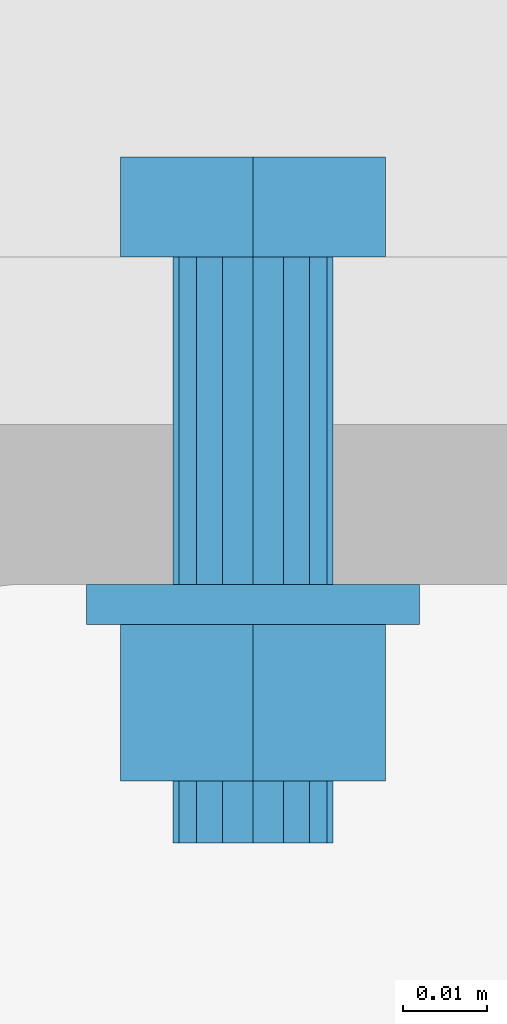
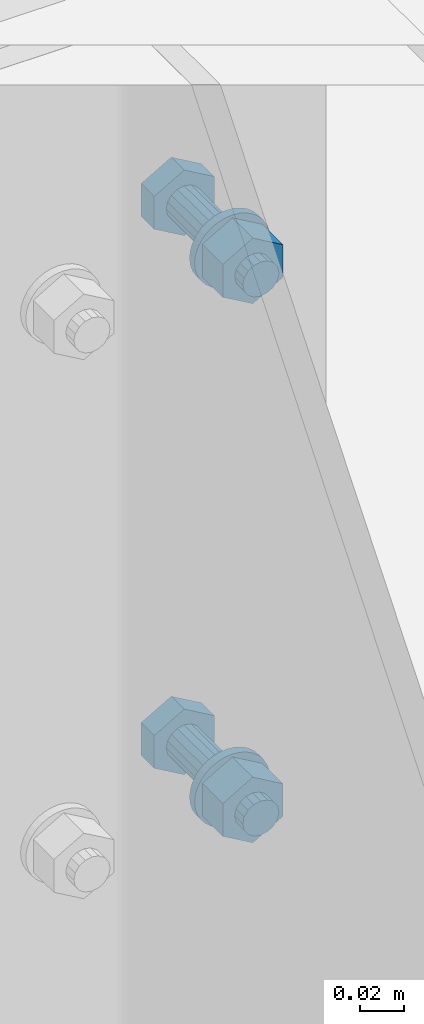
# Not in any storey, part 13 of 51: 2 mechanical fasteners.
"""IFC4 model written with IfcOpenShell, lengths in feet."""

from ifc_helpers import new_model, entity, si_unit, converted_unit, direction, origin, origin_with_axes, place, context, project, spatial, faceted_brep, element, save


model = new_model("IFC4")

# Units and contexts
model_context = context("Model", 3, precision=0.0001, world=origin(), true_north=direction((6.123233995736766e-17, 1.0)))
ifc_project = project(units=[converted_unit("LENGTHUNIT", "FOOT", entity("IfcLengthMeasure", 0.3048), si_unit("LENGTHUNIT", "METRE"), dimensions=[1, 0, 0, 0, 0, 0, 0]), converted_unit("AREAUNIT", "SQUARE INCH", entity("IfcAreaMeasure", 0.0006451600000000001), si_unit("AREAUNIT", "SQUARE_METRE"), dimensions=[2, 0, 0, 0, 0, 0, 0]), converted_unit("PLANEANGLEUNIT", "DEGREE", entity("IfcPlaneAngleMeasure", 0.017453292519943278), si_unit("PLANEANGLEUNIT", "RADIAN"), dimensions=[0, 0, 0, 0, 0, 0, 0]), si_unit("VOLUMEUNIT", "CUBIC_METRE")], contexts=[model_context])

# Site
site_placement = place(None, origin())
site = spatial("IfcSite", under=ifc_project, at=site_placement, Name="Default", CompositionType="ELEMENT")

# Mechanical fasteners
mechanical_fastener_1_placement = place(site_placement, origin_with_axes())
element("IfcMechanicalFastener", 1, at=mechanical_fastener_1_placement, inside=site, ObjectType="Bolt#3", NominalDiameter=0.0625, NominalLength=0.22916666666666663, context=model_context, shape_type="Brep", body=[
    faceted_brep([(27.751898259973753, 6.28730066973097, 19.146561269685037), (27.751898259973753, 6.326363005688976, 19.146561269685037), (27.803769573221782, 6.326363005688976, 19.11661335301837), (27.803769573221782, 6.28730066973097, 19.11661335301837), (27.855640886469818, 6.326363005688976, 19.146561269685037), (27.855640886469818, 6.28730066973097, 19.146561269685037), (27.855640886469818, 6.326363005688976, 19.206457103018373), (27.855640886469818, 6.28730066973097, 19.206457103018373), (27.803769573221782, 6.326363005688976, 19.23640501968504), (27.803769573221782, 6.28730066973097, 19.23640501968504), (27.751898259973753, 6.326363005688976, 19.206457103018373), (27.751898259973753, 6.28730066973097, 19.206457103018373)], [[[0, 1, 2, 3]], [[3, 2, 4, 5]], [[5, 4, 6, 7]], [[7, 6, 8, 9]], [[9, 8, 10, 11]], [[11, 10, 1, 0]], [[4, 2, 1, 10, 8, 6]], [[0, 3, 5, 7, 9, 11]]]),
    faceted_brep([(27.835019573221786, 6.28730066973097, 19.176509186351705), (27.835019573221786, 6.159183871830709, 19.176509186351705), (27.832640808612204, 6.159183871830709, 19.164550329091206), (27.832640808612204, 6.28730066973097, 19.164550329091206), (27.825866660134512, 6.159183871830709, 19.15441209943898), (27.825866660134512, 6.28730066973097, 19.15441209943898), (27.815728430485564, 6.159183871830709, 19.147637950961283), (27.815728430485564, 6.28730066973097, 19.147637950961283), (27.803769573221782, 6.159183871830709, 19.145259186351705), (27.803769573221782, 6.28730066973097, 19.145259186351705), (27.791810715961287, 6.159183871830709, 19.147637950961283), (27.791810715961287, 6.28730066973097, 19.147637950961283), (27.781672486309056, 6.159183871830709, 19.15441209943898), (27.781672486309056, 6.28730066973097, 19.15441209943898), (27.774898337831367, 6.159183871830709, 19.164550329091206), (27.774898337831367, 6.28730066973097, 19.164550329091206), (27.772519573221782, 6.159183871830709, 19.176509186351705), (27.772519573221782, 6.28730066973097, 19.176509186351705), (27.774898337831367, 6.159183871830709, 19.188468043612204), (27.774898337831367, 6.28730066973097, 19.188468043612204), (27.781672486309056, 6.159183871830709, 19.198606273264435), (27.781672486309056, 6.28730066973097, 19.198606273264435), (27.791810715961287, 6.159183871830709, 19.205380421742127), (27.791810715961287, 6.28730066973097, 19.205380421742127), (27.803769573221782, 6.159183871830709, 19.207759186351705), (27.803769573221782, 6.28730066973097, 19.207759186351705), (27.815728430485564, 6.159183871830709, 19.205380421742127), (27.815728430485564, 6.28730066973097, 19.205380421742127), (27.825866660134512, 6.159183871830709, 19.198606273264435), (27.825866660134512, 6.28730066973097, 19.198606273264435), (27.832640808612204, 6.159183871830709, 19.188468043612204), (27.832640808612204, 6.28730066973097, 19.188468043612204)], [[[0, 1, 2, 3]], [[3, 2, 4, 5]], [[5, 4, 6, 7]], [[7, 6, 8, 9]], [[9, 8, 10, 11]], [[11, 10, 12, 13]], [[13, 12, 14, 15]], [[15, 14, 16, 17]], [[17, 16, 18, 19]], [[19, 18, 20, 21]], [[21, 20, 22, 23]], [[23, 22, 24, 25]], [[25, 24, 26, 27]], [[27, 26, 28, 29]], [[29, 28, 30, 31]], [[31, 30, 1, 0]], [[0, 3, 5, 7, 9, 11, 13, 15, 17, 19, 21, 23, 25, 27, 29, 31]], [[1, 30, 28, 26, 24, 22, 20, 18, 16, 14, 12, 10, 8, 6, 4, 2]]]),
    faceted_brep([(27.86887373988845, 6.159183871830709, 19.176509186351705), (27.86887373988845, 6.143558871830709, 19.176509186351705), (27.867622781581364, 6.143558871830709, 19.1638079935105), (27.867622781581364, 6.159183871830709, 19.1638079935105), (27.863917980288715, 6.143558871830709, 19.151594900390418), (27.863917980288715, 6.159183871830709, 19.151594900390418), (27.857901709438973, 6.143558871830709, 19.14033924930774), (27.857901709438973, 6.159183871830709, 19.14033924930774), (27.849805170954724, 6.143558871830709, 19.130473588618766), (27.849805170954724, 6.159183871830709, 19.130473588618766), (27.839939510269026, 6.143558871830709, 19.122377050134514), (27.839939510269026, 6.159183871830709, 19.122377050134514), (27.82868385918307, 6.143558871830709, 19.11636077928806), (27.82868385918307, 6.159183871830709, 19.11636077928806), (27.816470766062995, 6.143558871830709, 19.112655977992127), (27.816470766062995, 6.159183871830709, 19.112655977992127), (27.803769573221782, 6.143558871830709, 19.111405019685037), (27.803769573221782, 6.159183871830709, 19.111405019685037), (27.79106838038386, 6.143558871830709, 19.112655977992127), (27.79106838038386, 6.159183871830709, 19.112655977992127), (27.7788552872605, 6.143558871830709, 19.11636077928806), (27.7788552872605, 6.159183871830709, 19.11636077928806), (27.76759963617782, 6.143558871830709, 19.122377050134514), (27.76759963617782, 6.159183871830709, 19.122377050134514), (27.757733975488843, 6.143558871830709, 19.130473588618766), (27.757733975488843, 6.159183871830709, 19.130473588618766), (27.749637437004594, 6.143558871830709, 19.14033924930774), (27.749637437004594, 6.159183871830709, 19.14033924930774), (27.743621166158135, 6.143558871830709, 19.151594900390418), (27.743621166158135, 6.159183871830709, 19.151594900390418), (27.739916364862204, 6.143558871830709, 19.1638079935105), (27.739916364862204, 6.159183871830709, 19.1638079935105), (27.738665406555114, 6.143558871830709, 19.176509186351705), (27.738665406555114, 6.159183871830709, 19.176509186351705), (27.739916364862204, 6.143558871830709, 19.18921037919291), (27.739916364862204, 6.159183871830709, 19.18921037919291), (27.743621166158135, 6.143558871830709, 19.201423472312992), (27.743621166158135, 6.159183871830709, 19.201423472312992), (27.749637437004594, 6.143558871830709, 19.21267912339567), (27.749637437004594, 6.159183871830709, 19.21267912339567), (27.757733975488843, 6.143558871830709, 19.222544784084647), (27.757733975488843, 6.159183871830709, 19.222544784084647), (27.76759963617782, 6.143558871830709, 19.230641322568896), (27.76759963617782, 6.159183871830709, 19.230641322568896), (27.7788552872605, 6.143558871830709, 19.23665759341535), (27.7788552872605, 6.159183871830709, 19.23665759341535), (27.79106838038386, 6.143558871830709, 19.240362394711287), (27.79106838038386, 6.159183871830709, 19.240362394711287), (27.803769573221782, 6.143558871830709, 19.241613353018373), (27.803769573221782, 6.159183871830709, 19.241613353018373), (27.816470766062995, 6.143558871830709, 19.240362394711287), (27.816470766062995, 6.159183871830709, 19.240362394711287), (27.82868385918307, 6.143558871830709, 19.23665759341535), (27.82868385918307, 6.159183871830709, 19.23665759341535), (27.839939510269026, 6.143558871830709, 19.230641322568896), (27.839939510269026, 6.159183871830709, 19.230641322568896), (27.849805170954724, 6.143558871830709, 19.222544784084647), (27.849805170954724, 6.159183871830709, 19.222544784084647), (27.857901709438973, 6.143558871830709, 19.21267912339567), (27.857901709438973, 6.159183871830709, 19.21267912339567), (27.863917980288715, 6.143558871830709, 19.201423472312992), (27.863917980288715, 6.159183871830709, 19.201423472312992), (27.867622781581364, 6.143558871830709, 19.18921037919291), (27.867622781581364, 6.159183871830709, 19.18921037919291)], [[[0, 1, 2, 3]], [[3, 2, 4, 5]], [[5, 4, 6, 7]], [[7, 6, 8, 9]], [[9, 8, 10, 11]], [[11, 10, 12, 13]], [[13, 12, 14, 15]], [[15, 14, 16, 17]], [[17, 16, 18, 19]], [[19, 18, 20, 21]], [[21, 20, 22, 23]], [[23, 22, 24, 25]], [[25, 24, 26, 27]], [[27, 26, 28, 29]], [[29, 28, 30, 31]], [[31, 30, 32, 33]], [[33, 32, 34, 35]], [[35, 34, 36, 37]], [[37, 36, 38, 39]], [[39, 38, 40, 41]], [[41, 40, 42, 43]], [[43, 42, 44, 45]], [[45, 44, 46, 47]], [[47, 46, 48, 49]], [[49, 48, 50, 51]], [[51, 50, 52, 53]], [[53, 52, 54, 55]], [[55, 54, 56, 57]], [[57, 56, 58, 59]], [[59, 58, 60, 61]], [[61, 60, 62, 63]], [[63, 62, 1, 0]], [[0, 3, 5, 7, 9, 11, 13, 15, 17, 19, 21, 23, 25, 27, 29, 31, 33, 35, 37, 39, 41, 43, 45, 47, 49, 51, 53, 55, 57, 59, 61, 63]], [[1, 62, 60, 58, 56, 54, 52, 50, 48, 46, 44, 42, 40, 38, 36, 34, 32, 30, 28, 26, 24, 22, 20, 18, 16, 14, 12, 10, 8, 6, 4, 2]]]),
    faceted_brep([(27.751898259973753, 6.082361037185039, 19.146561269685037), (27.751898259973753, 6.143558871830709, 19.146561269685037), (27.803769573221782, 6.143558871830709, 19.11661335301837), (27.803769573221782, 6.082361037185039, 19.11661335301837), (27.855640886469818, 6.143558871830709, 19.146561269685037), (27.855640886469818, 6.082361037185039, 19.146561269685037), (27.855640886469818, 6.143558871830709, 19.206457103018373), (27.855640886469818, 6.082361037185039, 19.206457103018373), (27.803769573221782, 6.143558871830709, 19.23640501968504), (27.803769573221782, 6.082361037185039, 19.23640501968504), (27.751898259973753, 6.143558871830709, 19.206457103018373), (27.751898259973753, 6.082361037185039, 19.206457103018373)], [[[0, 1, 2, 3]], [[3, 2, 4, 5]], [[5, 4, 6, 7]], [[7, 6, 8, 9]], [[9, 8, 10, 11]], [[11, 10, 1, 0]], [[4, 2, 1, 10, 8, 6]], [[0, 3, 5, 7, 9, 11]]]),
    faceted_brep([(27.835019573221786, 6.082361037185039, 19.176509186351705), (27.835019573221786, 6.058134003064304, 19.176509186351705), (27.832640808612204, 6.058134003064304, 19.164550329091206), (27.832640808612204, 6.082361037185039, 19.164550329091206), (27.825866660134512, 6.058134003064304, 19.15441209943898), (27.825866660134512, 6.082361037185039, 19.15441209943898), (27.815728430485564, 6.058134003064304, 19.147637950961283), (27.815728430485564, 6.082361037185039, 19.147637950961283), (27.803769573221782, 6.058134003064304, 19.145259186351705), (27.803769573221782, 6.082361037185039, 19.145259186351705), (27.791810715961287, 6.058134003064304, 19.147637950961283), (27.791810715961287, 6.082361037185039, 19.147637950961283), (27.781672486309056, 6.058134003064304, 19.15441209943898), (27.781672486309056, 6.082361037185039, 19.15441209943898), (27.774898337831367, 6.058134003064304, 19.164550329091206), (27.774898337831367, 6.082361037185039, 19.164550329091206), (27.772519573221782, 6.058134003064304, 19.176509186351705), (27.772519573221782, 6.082361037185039, 19.176509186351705), (27.774898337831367, 6.058134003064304, 19.188468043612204), (27.774898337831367, 6.082361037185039, 19.188468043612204), (27.781672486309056, 6.058134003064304, 19.198606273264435), (27.781672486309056, 6.082361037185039, 19.198606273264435), (27.791810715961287, 6.058134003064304, 19.205380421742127), (27.791810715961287, 6.082361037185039, 19.205380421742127), (27.803769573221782, 6.058134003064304, 19.207759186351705), (27.803769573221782, 6.082361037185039, 19.207759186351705), (27.815728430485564, 6.058134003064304, 19.205380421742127), (27.815728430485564, 6.082361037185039, 19.205380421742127), (27.825866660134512, 6.058134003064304, 19.198606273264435), (27.825866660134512, 6.082361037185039, 19.198606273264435), (27.832640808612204, 6.058134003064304, 19.188468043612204), (27.832640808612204, 6.082361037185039, 19.188468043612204)], [[[0, 1, 2, 3]], [[3, 2, 4, 5]], [[5, 4, 6, 7]], [[7, 6, 8, 9]], [[9, 8, 10, 11]], [[11, 10, 12, 13]], [[13, 12, 14, 15]], [[15, 14, 16, 17]], [[17, 16, 18, 19]], [[19, 18, 20, 21]], [[21, 20, 22, 23]], [[23, 22, 24, 25]], [[25, 24, 26, 27]], [[27, 26, 28, 29]], [[29, 28, 30, 31]], [[31, 30, 1, 0]], [[0, 3, 5, 7, 9, 11, 13, 15, 17, 19, 21, 23, 25, 27, 29, 31]], [[1, 30, 28, 26, 24, 22, 20, 18, 16, 14, 12, 10, 8, 6, 4, 2]]]),
])
mechanical_fastener_2_placement = place(site_placement, origin_with_axes())
element("IfcMechanicalFastener", 2, at=mechanical_fastener_2_placement, inside=site, ObjectType="Bolt#4", NominalDiameter=0.0625, NominalLength=0.22916666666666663, context=model_context, shape_type="Brep", body=[
    faceted_brep([(27.751898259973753, 6.28730066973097, 18.1623093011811), (27.751898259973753, 6.326363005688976, 18.1623093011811), (27.803769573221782, 6.326363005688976, 18.132361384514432), (27.803769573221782, 6.28730066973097, 18.132361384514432), (27.855640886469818, 6.326363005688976, 18.1623093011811), (27.855640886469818, 6.28730066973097, 18.1623093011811), (27.855640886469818, 6.326363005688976, 18.222205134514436), (27.855640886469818, 6.28730066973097, 18.222205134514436), (27.803769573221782, 6.326363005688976, 18.252153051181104), (27.803769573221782, 6.28730066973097, 18.252153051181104), (27.751898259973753, 6.326363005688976, 18.222205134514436), (27.751898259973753, 6.28730066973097, 18.222205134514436)], [[[0, 1, 2, 3]], [[3, 2, 4, 5]], [[5, 4, 6, 7]], [[7, 6, 8, 9]], [[9, 8, 10, 11]], [[11, 10, 1, 0]], [[4, 2, 1, 10, 8, 6]], [[0, 3, 5, 7, 9, 11]]]),
    faceted_brep([(27.835019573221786, 6.28730066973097, 18.192257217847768), (27.835019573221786, 6.159183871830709, 18.192257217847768), (27.832640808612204, 6.159183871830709, 18.18029836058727), (27.832640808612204, 6.28730066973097, 18.18029836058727), (27.825866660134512, 6.159183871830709, 18.17016013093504), (27.825866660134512, 6.28730066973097, 18.17016013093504), (27.815728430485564, 6.159183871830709, 18.163385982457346), (27.815728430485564, 6.28730066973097, 18.163385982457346), (27.803769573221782, 6.159183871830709, 18.161007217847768), (27.803769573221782, 6.28730066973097, 18.161007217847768), (27.791810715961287, 6.159183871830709, 18.163385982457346), (27.791810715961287, 6.28730066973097, 18.163385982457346), (27.781672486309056, 6.159183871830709, 18.17016013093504), (27.781672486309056, 6.28730066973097, 18.17016013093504), (27.774898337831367, 6.159183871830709, 18.18029836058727), (27.774898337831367, 6.28730066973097, 18.18029836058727), (27.772519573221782, 6.159183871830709, 18.192257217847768), (27.772519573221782, 6.28730066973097, 18.192257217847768), (27.774898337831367, 6.159183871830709, 18.204216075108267), (27.774898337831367, 6.28730066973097, 18.204216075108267), (27.781672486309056, 6.159183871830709, 18.214354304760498), (27.781672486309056, 6.28730066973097, 18.214354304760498), (27.791810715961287, 6.159183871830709, 18.22112845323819), (27.791810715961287, 6.28730066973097, 18.22112845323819), (27.803769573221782, 6.159183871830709, 18.223507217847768), (27.803769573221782, 6.28730066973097, 18.223507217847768), (27.815728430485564, 6.159183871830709, 18.22112845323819), (27.815728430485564, 6.28730066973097, 18.22112845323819), (27.825866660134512, 6.159183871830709, 18.214354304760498), (27.825866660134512, 6.28730066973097, 18.214354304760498), (27.832640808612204, 6.159183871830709, 18.204216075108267), (27.832640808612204, 6.28730066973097, 18.204216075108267)], [[[0, 1, 2, 3]], [[3, 2, 4, 5]], [[5, 4, 6, 7]], [[7, 6, 8, 9]], [[9, 8, 10, 11]], [[11, 10, 12, 13]], [[13, 12, 14, 15]], [[15, 14, 16, 17]], [[17, 16, 18, 19]], [[19, 18, 20, 21]], [[21, 20, 22, 23]], [[23, 22, 24, 25]], [[25, 24, 26, 27]], [[27, 26, 28, 29]], [[29, 28, 30, 31]], [[31, 30, 1, 0]], [[0, 3, 5, 7, 9, 11, 13, 15, 17, 19, 21, 23, 25, 27, 29, 31]], [[1, 30, 28, 26, 24, 22, 20, 18, 16, 14, 12, 10, 8, 6, 4, 2]]]),
    faceted_brep([(27.86887373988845, 6.159183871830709, 18.192257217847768), (27.86887373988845, 6.143558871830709, 18.192257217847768), (27.867622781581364, 6.143558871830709, 18.179556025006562), (27.867622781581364, 6.159183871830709, 18.179556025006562), (27.863917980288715, 6.143558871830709, 18.16734293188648), (27.863917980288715, 6.159183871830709, 18.16734293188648), (27.857901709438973, 6.143558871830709, 18.156087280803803), (27.857901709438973, 6.159183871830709, 18.156087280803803), (27.849805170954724, 6.143558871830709, 18.14622162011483), (27.849805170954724, 6.159183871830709, 18.14622162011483), (27.839939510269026, 6.143558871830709, 18.138125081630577), (27.839939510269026, 6.159183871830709, 18.138125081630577), (27.82868385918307, 6.143558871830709, 18.13210881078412), (27.82868385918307, 6.159183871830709, 18.13210881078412), (27.816470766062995, 6.143558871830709, 18.12840400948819), (27.816470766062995, 6.159183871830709, 18.12840400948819), (27.803769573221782, 6.143558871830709, 18.1271530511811), (27.803769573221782, 6.159183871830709, 18.1271530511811), (27.79106838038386, 6.143558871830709, 18.12840400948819), (27.79106838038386, 6.159183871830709, 18.12840400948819), (27.7788552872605, 6.143558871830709, 18.13210881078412), (27.7788552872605, 6.159183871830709, 18.13210881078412), (27.76759963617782, 6.143558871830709, 18.138125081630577), (27.76759963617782, 6.159183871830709, 18.138125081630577), (27.757733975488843, 6.143558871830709, 18.14622162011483), (27.757733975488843, 6.159183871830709, 18.14622162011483), (27.749637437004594, 6.143558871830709, 18.156087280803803), (27.749637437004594, 6.159183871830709, 18.156087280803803), (27.743621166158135, 6.143558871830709, 18.16734293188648), (27.743621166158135, 6.159183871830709, 18.16734293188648), (27.739916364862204, 6.143558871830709, 18.179556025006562), (27.739916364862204, 6.159183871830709, 18.179556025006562), (27.738665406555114, 6.143558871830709, 18.192257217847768), (27.738665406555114, 6.159183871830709, 18.192257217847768), (27.739916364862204, 6.143558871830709, 18.204958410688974), (27.739916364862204, 6.159183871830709, 18.204958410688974), (27.743621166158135, 6.143558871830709, 18.217171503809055), (27.743621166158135, 6.159183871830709, 18.217171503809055), (27.749637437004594, 6.143558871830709, 18.228427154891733), (27.749637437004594, 6.159183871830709, 18.228427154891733), (27.757733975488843, 6.143558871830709, 18.23829281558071), (27.757733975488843, 6.159183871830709, 18.23829281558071), (27.76759963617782, 6.143558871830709, 18.24638935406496), (27.76759963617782, 6.159183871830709, 18.24638935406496), (27.7788552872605, 6.143558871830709, 18.252405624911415), (27.7788552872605, 6.159183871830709, 18.252405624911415), (27.79106838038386, 6.143558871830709, 18.25611042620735), (27.79106838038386, 6.159183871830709, 18.25611042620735), (27.803769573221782, 6.143558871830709, 18.257361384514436), (27.803769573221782, 6.159183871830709, 18.257361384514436), (27.816470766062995, 6.143558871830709, 18.25611042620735), (27.816470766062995, 6.159183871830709, 18.25611042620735), (27.82868385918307, 6.143558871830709, 18.252405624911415), (27.82868385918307, 6.159183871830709, 18.252405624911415), (27.839939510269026, 6.143558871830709, 18.24638935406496), (27.839939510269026, 6.159183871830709, 18.24638935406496), (27.849805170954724, 6.143558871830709, 18.23829281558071), (27.849805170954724, 6.159183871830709, 18.23829281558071), (27.857901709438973, 6.143558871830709, 18.228427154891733), (27.857901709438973, 6.159183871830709, 18.228427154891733), (27.863917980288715, 6.143558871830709, 18.217171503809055), (27.863917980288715, 6.159183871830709, 18.217171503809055), (27.867622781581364, 6.143558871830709, 18.204958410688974), (27.867622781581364, 6.159183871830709, 18.204958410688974)], [[[0, 1, 2, 3]], [[3, 2, 4, 5]], [[5, 4, 6, 7]], [[7, 6, 8, 9]], [[9, 8, 10, 11]], [[11, 10, 12, 13]], [[13, 12, 14, 15]], [[15, 14, 16, 17]], [[17, 16, 18, 19]], [[19, 18, 20, 21]], [[21, 20, 22, 23]], [[23, 22, 24, 25]], [[25, 24, 26, 27]], [[27, 26, 28, 29]], [[29, 28, 30, 31]], [[31, 30, 32, 33]], [[33, 32, 34, 35]], [[35, 34, 36, 37]], [[37, 36, 38, 39]], [[39, 38, 40, 41]], [[41, 40, 42, 43]], [[43, 42, 44, 45]], [[45, 44, 46, 47]], [[47, 46, 48, 49]], [[49, 48, 50, 51]], [[51, 50, 52, 53]], [[53, 52, 54, 55]], [[55, 54, 56, 57]], [[57, 56, 58, 59]], [[59, 58, 60, 61]], [[61, 60, 62, 63]], [[63, 62, 1, 0]], [[0, 3, 5, 7, 9, 11, 13, 15, 17, 19, 21, 23, 25, 27, 29, 31, 33, 35, 37, 39, 41, 43, 45, 47, 49, 51, 53, 55, 57, 59, 61, 63]], [[1, 62, 60, 58, 56, 54, 52, 50, 48, 46, 44, 42, 40, 38, 36, 34, 32, 30, 28, 26, 24, 22, 20, 18, 16, 14, 12, 10, 8, 6, 4, 2]]]),
    faceted_brep([(27.751898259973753, 6.082361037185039, 18.1623093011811), (27.751898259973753, 6.143558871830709, 18.1623093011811), (27.803769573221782, 6.143558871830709, 18.132361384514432), (27.803769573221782, 6.082361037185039, 18.132361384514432), (27.855640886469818, 6.143558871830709, 18.1623093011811), (27.855640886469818, 6.082361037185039, 18.1623093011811), (27.855640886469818, 6.143558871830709, 18.222205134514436), (27.855640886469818, 6.082361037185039, 18.222205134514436), (27.803769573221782, 6.143558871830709, 18.252153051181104), (27.803769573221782, 6.082361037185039, 18.252153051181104), (27.751898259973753, 6.143558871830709, 18.222205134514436), (27.751898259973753, 6.082361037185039, 18.222205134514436)], [[[0, 1, 2, 3]], [[3, 2, 4, 5]], [[5, 4, 6, 7]], [[7, 6, 8, 9]], [[9, 8, 10, 11]], [[11, 10, 1, 0]], [[4, 2, 1, 10, 8, 6]], [[0, 3, 5, 7, 9, 11]]]),
    faceted_brep([(27.835019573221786, 6.082361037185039, 18.192257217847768), (27.835019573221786, 6.058134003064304, 18.192257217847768), (27.832640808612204, 6.058134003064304, 18.18029836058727), (27.832640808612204, 6.082361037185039, 18.18029836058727), (27.825866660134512, 6.058134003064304, 18.17016013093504), (27.825866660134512, 6.082361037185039, 18.17016013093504), (27.815728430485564, 6.058134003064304, 18.163385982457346), (27.815728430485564, 6.082361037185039, 18.163385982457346), (27.803769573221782, 6.058134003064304, 18.161007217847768), (27.803769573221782, 6.082361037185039, 18.161007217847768), (27.791810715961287, 6.058134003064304, 18.163385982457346), (27.791810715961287, 6.082361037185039, 18.163385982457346), (27.781672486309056, 6.058134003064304, 18.17016013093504), (27.781672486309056, 6.082361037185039, 18.17016013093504), (27.774898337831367, 6.058134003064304, 18.18029836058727), (27.774898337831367, 6.082361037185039, 18.18029836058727), (27.772519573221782, 6.058134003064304, 18.192257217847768), (27.772519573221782, 6.082361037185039, 18.192257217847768), (27.774898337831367, 6.058134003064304, 18.204216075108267), (27.774898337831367, 6.082361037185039, 18.204216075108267), (27.781672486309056, 6.058134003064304, 18.214354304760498), (27.781672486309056, 6.082361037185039, 18.214354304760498), (27.791810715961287, 6.058134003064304, 18.22112845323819), (27.791810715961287, 6.082361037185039, 18.22112845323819), (27.803769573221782, 6.058134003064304, 18.223507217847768), (27.803769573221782, 6.082361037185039, 18.223507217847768), (27.815728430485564, 6.058134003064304, 18.22112845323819), (27.815728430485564, 6.082361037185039, 18.22112845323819), (27.825866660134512, 6.058134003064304, 18.214354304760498), (27.825866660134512, 6.082361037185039, 18.214354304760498), (27.832640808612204, 6.058134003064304, 18.204216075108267), (27.832640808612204, 6.082361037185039, 18.204216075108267)], [[[0, 1, 2, 3]], [[3, 2, 4, 5]], [[5, 4, 6, 7]], [[7, 6, 8, 9]], [[9, 8, 10, 11]], [[11, 10, 12, 13]], [[13, 12, 14, 15]], [[15, 14, 16, 17]], [[17, 16, 18, 19]], [[19, 18, 20, 21]], [[21, 20, 22, 23]], [[23, 22, 24, 25]], [[25, 24, 26, 27]], [[27, 26, 28, 29]], [[29, 28, 30, 31]], [[31, 30, 1, 0]], [[0, 3, 5, 7, 9, 11, 13, 15, 17, 19, 21, 23, 25, 27, 29, 31]], [[1, 30, 28, 26, 24, 22, 20, 18, 16, 14, 12, 10, 8, 6, 4, 2]]]),
])

save(model, "model.ifc")
